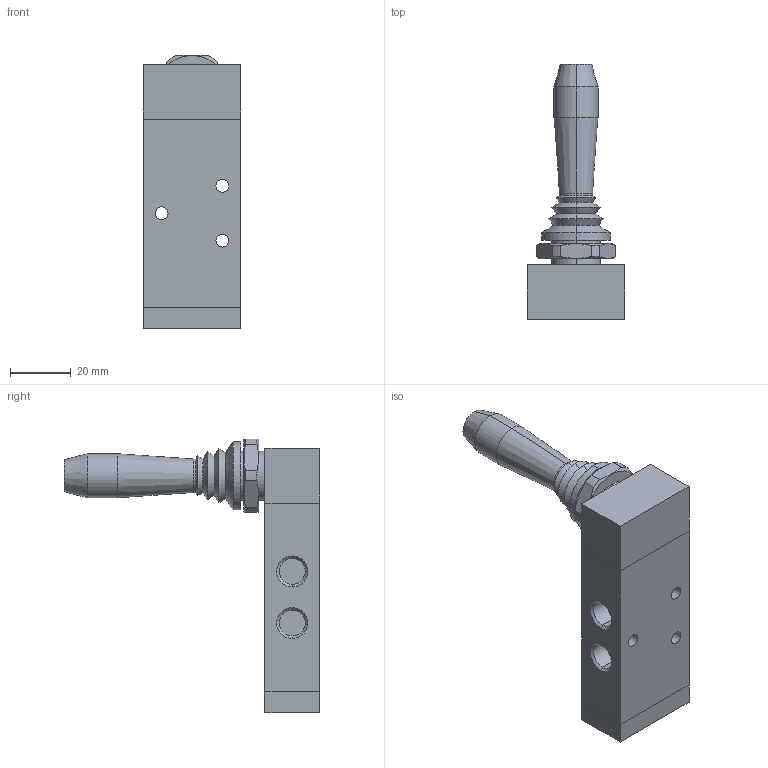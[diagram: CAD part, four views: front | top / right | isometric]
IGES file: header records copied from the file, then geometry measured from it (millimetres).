
Global section: file name: No Iges File Name specified; native system: AutoDesk Inventor R11.0; preprocessor: AutoDesk Inventor Iges Exporter R11.0; author: No Author specified; organization: No Organization specified; date: 20061219.114437; units: millimetre
Bounding box: 32 x 84.01 x 90 mm (x, y, z)
Volume: 59257 mm3; surface area: 16093.5 mm2
Topology: 2 solids, 2 shells, 99 faces, 222 edges, 136 vertices
Faces by surface type: bspline 29, plane 26, cone 22, cylinder 14, revolution 8
